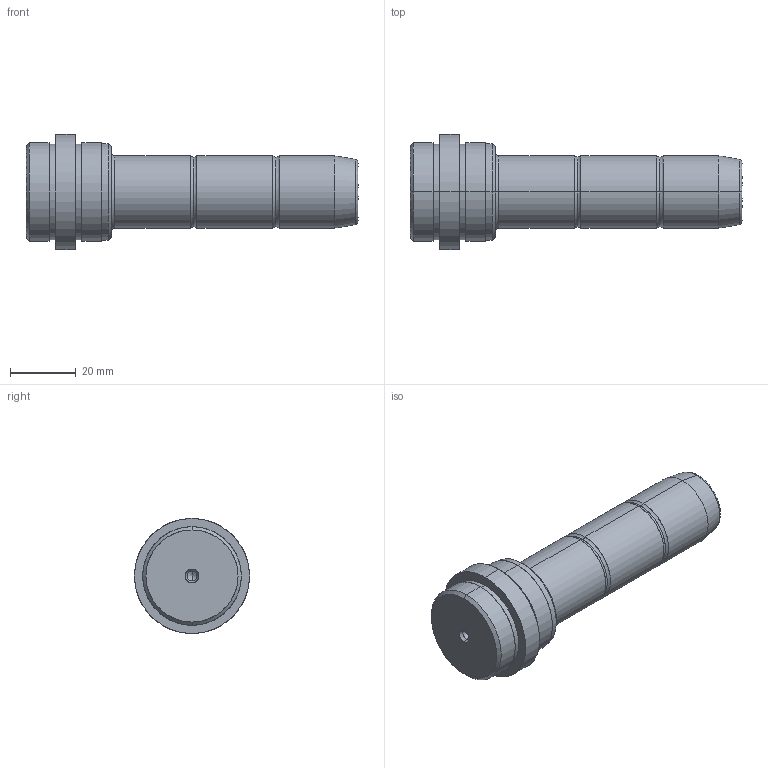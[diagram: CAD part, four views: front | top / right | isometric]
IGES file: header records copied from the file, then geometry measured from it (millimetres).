
Start section: SolidWorks IGES FILE using analytic representation for surfaces
Global section: file name: D:\zzzzz\Delta\D03\22\D03 - 22x17x75.IGS; native system: SolidWorks 2004 by SolidWorks Corporation; preprocessor: Version 5.3; author: Hkn; date: 080327.165942; units: millimetre
Bounding box: 101 x 35 x 35 mm (x, y, z)
Surface area: 9651.2 mm2 (no closed solid volume)
Topology: 0 solids, 0 shells, 56 faces, 1056 edges, 1052 vertices
Faces by surface type: revolution 36, bspline 20
